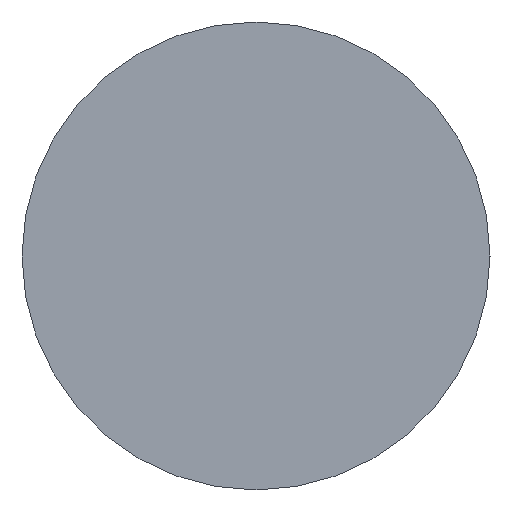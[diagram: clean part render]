
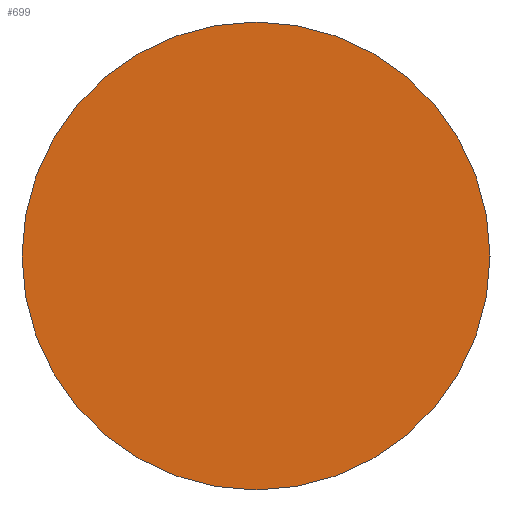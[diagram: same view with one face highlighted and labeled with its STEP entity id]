
A CAD part, left-side view. The second image highlights one B-rep face of the part: STEP entity #699.
In plain terms, the highlighted planar face has unit normal (-1, 0, 0).
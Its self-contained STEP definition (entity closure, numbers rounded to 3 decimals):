
#20 = CIRCLE ( 'NONE', #310, 19. ) ;
#32 = EDGE_LOOP ( 'NONE', ( #569, #241 ) ) ;
#91 = CIRCLE ( 'NONE', #592, 19. ) ;
#153 = DIRECTION ( 'NONE',  ( 0., 0., -1. ) ) ;
#157 = DIRECTION ( 'NONE',  ( 1., 0., 0. ) ) ;
#170 = EDGE_CURVE ( 'NONE', #323, #248, #20, .T. ) ;
#220 = PLANE ( 'NONE',  #657 ) ;
#241 = ORIENTED_EDGE ( 'NONE', *, *, #170, .T. ) ;
#248 = VERTEX_POINT ( 'NONE', #445 ) ;
#310 = AXIS2_PLACEMENT_3D ( 'NONE', #772, #342, #708 ) ;
#323 = VERTEX_POINT ( 'NONE', #372 ) ;
#342 = DIRECTION ( 'NONE',  ( -1., 0., 0. ) ) ;
#361 = CARTESIAN_POINT ( 'NONE',  ( 0., 0., 0. ) ) ;
#372 = CARTESIAN_POINT ( 'NONE',  ( 0., 0., -19. ) ) ;
#374 = EDGE_CURVE ( 'NONE', #248, #323, #91, .T. ) ;
#395 = DIRECTION ( 'NONE',  ( -1., 0., 0. ) ) ;
#445 = CARTESIAN_POINT ( 'NONE',  ( 0., 0., 19. ) ) ;
#569 = ORIENTED_EDGE ( 'NONE', *, *, #374, .T. ) ;
#592 = AXIS2_PLACEMENT_3D ( 'NONE', #644, #395, #767 ) ;
#644 = CARTESIAN_POINT ( 'NONE',  ( 0., 0., 0. ) ) ;
#657 = AXIS2_PLACEMENT_3D ( 'NONE', #361, #157, #153 ) ;
#699 = ADVANCED_FACE ( 'NONE', ( #730 ), #220, .F. ) ;
#708 = DIRECTION ( 'NONE',  ( 0., 0., 1. ) ) ;
#730 = FACE_OUTER_BOUND ( 'NONE', #32, .T. ) ;
#767 = DIRECTION ( 'NONE',  ( 0., 0., 1. ) ) ;
#772 = CARTESIAN_POINT ( 'NONE',  ( 0., 0., 0. ) ) ;
